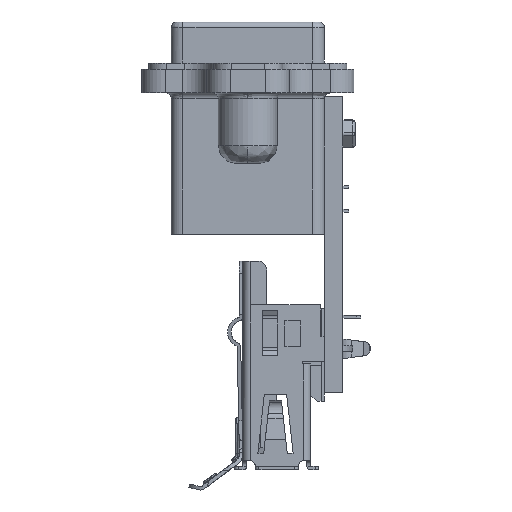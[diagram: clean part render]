
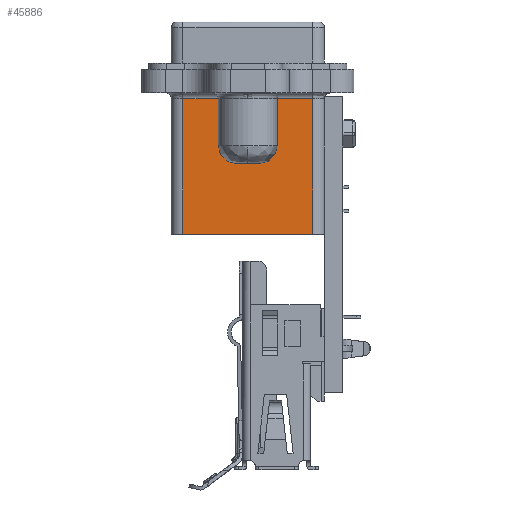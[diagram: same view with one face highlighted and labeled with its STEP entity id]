
A CAD part, left-side view. The second image highlights one B-rep face of the part: STEP entity #45886.
In plain terms, the highlighted planar face has unit normal (-1, 0, 0).
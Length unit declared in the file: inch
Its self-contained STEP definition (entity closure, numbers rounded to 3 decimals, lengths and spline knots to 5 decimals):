
#274 = CARTESIAN_POINT ( 'NONE',  ( -0.27559, 0.21654, -0.09843 ) ) ;
#3678 = VECTOR ( 'NONE', #51321, 39.37008 ) ;
#4352 = VECTOR ( 'NONE', #18204, 39.37008 ) ;
#6238 = PLANE ( 'NONE',  #58910 ) ;
#7636 = VERTEX_POINT ( 'NONE', #274 ) ;
#8392 = DIRECTION ( 'NONE',  ( 0., 0., 1. ) ) ;
#9091 = VERTEX_POINT ( 'NONE', #11274 ) ;
#10089 = CARTESIAN_POINT ( 'NONE',  ( -0.27559, 0.21654, -0.3248 ) ) ;
#11273 = CARTESIAN_POINT ( 'NONE',  ( -0.27559, 0.21654, -0.55118 ) ) ;
#11274 = CARTESIAN_POINT ( 'NONE',  ( -0.27559, -0.21654, -0.55118 ) ) ;
#14290 = VERTEX_POINT ( 'NONE', #52913 ) ;
#15232 = LINE ( 'NONE', #16889, #3678 ) ;
#16163 = DIRECTION ( 'NONE',  ( -1., 0., 0. ) ) ;
#16512 = EDGE_CURVE ( 'NONE', #14290, #7636, #15232, .T. ) ;
#16889 = CARTESIAN_POINT ( 'NONE',  ( -0.27559, 0., -0.09843 ) ) ;
#18204 = DIRECTION ( 'NONE',  ( 0., -1., 0. ) ) ;
#19088 = LINE ( 'NONE', #47810, #30606 ) ;
#19683 = VECTOR ( 'NONE', #34633, 39.37008 ) ;
#29008 = LINE ( 'NONE', #47689, #4352 ) ;
#29695 = ORIENTED_EDGE ( 'NONE', *, *, #59097, .T. ) ;
#30606 = VECTOR ( 'NONE', #8392, 39.37008 ) ;
#34633 = DIRECTION ( 'NONE',  ( 0., 0., -1. ) ) ;
#37836 = EDGE_CURVE ( 'NONE', #9091, #14290, #19088, .T. ) ;
#38585 = EDGE_CURVE ( 'NONE', #49177, #9091, #29008, .T. ) ;
#41600 = EDGE_LOOP ( 'NONE', ( #61896, #61186, #29695, #60047 ) ) ;
#45865 = LINE ( 'NONE', #10089, #19683 ) ;
#45886 = ADVANCED_FACE ( 'NONE', ( #63021 ), #6238, .T. ) ;
#47689 = CARTESIAN_POINT ( 'NONE',  ( -0.27559, 0., -0.55118 ) ) ;
#47810 = CARTESIAN_POINT ( 'NONE',  ( -0.27559, -0.21654, -0.3248 ) ) ;
#49177 = VERTEX_POINT ( 'NONE', #11273 ) ;
#50155 = CARTESIAN_POINT ( 'NONE',  ( -0.27559, 0.21654, -0.09843 ) ) ;
#50586 = DIRECTION ( 'NONE',  ( 0., 0., -1. ) ) ;
#51321 = DIRECTION ( 'NONE',  ( 0., 1., 0. ) ) ;
#52913 = CARTESIAN_POINT ( 'NONE',  ( -0.27559, -0.21654, -0.09843 ) ) ;
#58910 = AXIS2_PLACEMENT_3D ( 'NONE', #50155, #16163, #50586 ) ;
#59097 = EDGE_CURVE ( 'NONE', #7636, #49177, #45865, .T. ) ;
#60047 = ORIENTED_EDGE ( 'NONE', *, *, #38585, .T. ) ;
#61186 = ORIENTED_EDGE ( 'NONE', *, *, #16512, .T. ) ;
#61896 = ORIENTED_EDGE ( 'NONE', *, *, #37836, .T. ) ;
#63021 = FACE_OUTER_BOUND ( 'NONE', #41600, .T. ) ;
